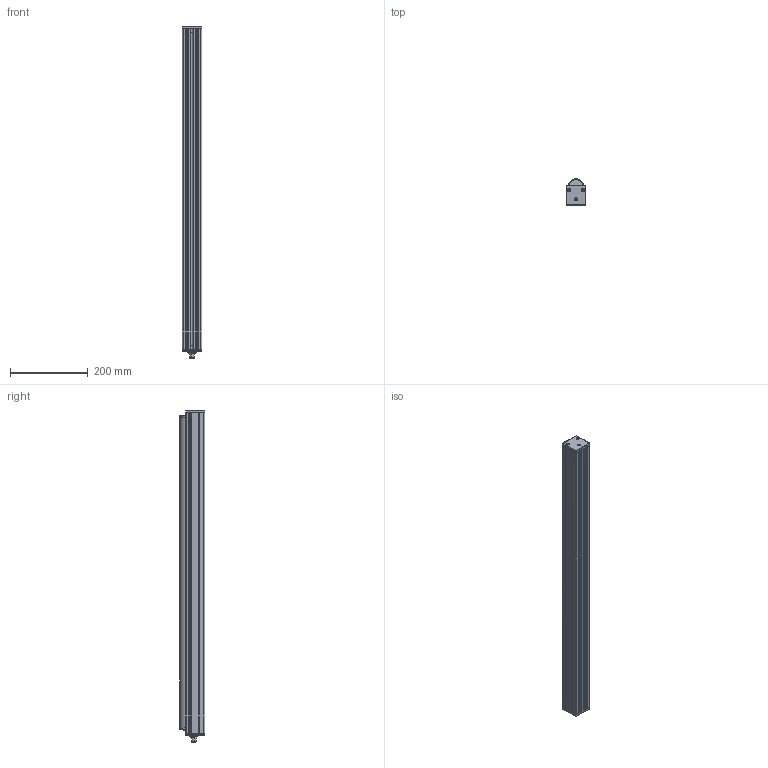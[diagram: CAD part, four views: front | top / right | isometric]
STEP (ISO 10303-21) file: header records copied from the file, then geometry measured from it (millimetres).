
FILE_DESCRIPTION (( 'STEP AP214' ), '1' );
FILE_NAME ('EFFI-FLEX2-800-ZZZ-CYL-1M12P.STEP', '2026-06-18T10:10:07', ( '' ), ( '' ), 'SwSTEP 2.0', 'SolidWorks 2025', '' );
FILE_SCHEMA (( 'AUTOMOTIVE_DESIGN' ));
Length unit declared in the file: millimetre
Products named in the file (7): 018941-MODELE GENERIQUE; EFFI-FLEX2-800-ZZZ-CYL-1M12P; 017872-MODELE GENERIQUE AVEC LENTILLE_800; 018302-MODELE GENERIQUE; 006434; 018305-MODELE GENERIQUE; 000605
Assembly tree (12 placements, depth 2):
  EFFI-FLEX2-800-ZZZ-CYL-1M12P
    017872-MODELE GENERIQUE AVEC LENTILLE_800
    018302-MODELE GENERIQUE
    018305-MODELE GENERIQUE
    000605  x6
    018941-MODELE GENERIQUE  x2
    006434
Bounding box: 51.01 x 66.47 x 852 mm (x, y, z)
Volume: 2156329.1 mm3; surface area: 367945.5 mm2
Topology: 13 solids, 17 shells, 927 faces, 2348 edges, 1483 vertices
Faces by surface type: plane 401, cylinder 229, cone 176, bspline 80, torus 33, sphere 8
Entity records: 24778 total; most frequent: CARTESIAN_POINT 7436, ORIENTED_EDGE 3600, DIRECTION 3554, EDGE_CURVE 1800, AXIS2_PLACEMENT_3D 1296, VERTEX_POINT 1161, VECTOR 962, LINE 962
